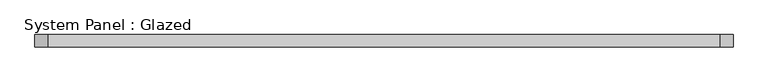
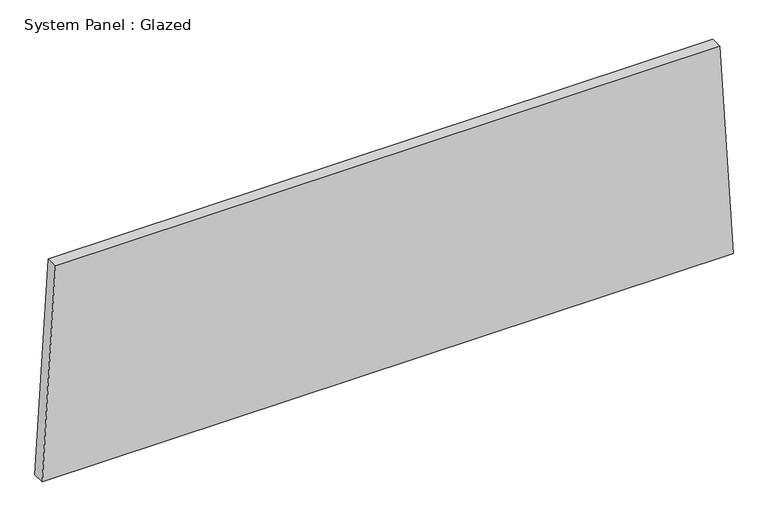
"""IFC4 building model written with IfcOpenShell, lengths in millimetres: plate geometry, System Panel : Glazed."""

from ifc_helpers import new_model, si_unit, frame, origin, place, context, project, spatial, polyline, outline, extrude, source, transform, mapped, element, save


def system_panel_glazed_710fb636(model_context):
    return source(origin(), model_context, "Body", "SweptSolid", [
        extrude(outline(polyline([(0.0, -706.8812862), (0.0, 706.8812862), (457.7399348, 679.7843422), (457.7399348, -679.7843422), (0.0, -706.8812862)])), frame((0.0, 19.05, 0.0), z_axis=(0.0, 1.0, 0.0), x_axis=(0.0, 0.0, 1.0)), (0.0, 0.0, 1.0), 25.4),
    ])


if __name__ == "__main__":
    model = new_model("IFC4")
    model_context = context("Model", 3, world=origin())
    ifc_project = project(units=[si_unit("LENGTHUNIT", "METRE", prefix="MILLI")], contexts=[model_context])
    site = spatial("IfcSite", under=ifc_project)
    building = spatial("IfcBuilding", under=site)
    placement = place(None, origin())
    system_panel_glazed_shape = system_panel_glazed_710fb636(model_context)
    element("IfcPlate", 1, ObjectType="System Panel : Glazed", at=placement, inside=building, context=model_context, shape_type="MappedRepresentation", body=[
        mapped(system_panel_glazed_shape, transform((0.0, 0.0, 0.0), x_axis=(1.0, 0.0, 0.0), y_axis=(0.0, 1.0, 0.0), z_axis=(0.0, 0.0, 1.0))),
    ])
    save(model, "model.ifc")
